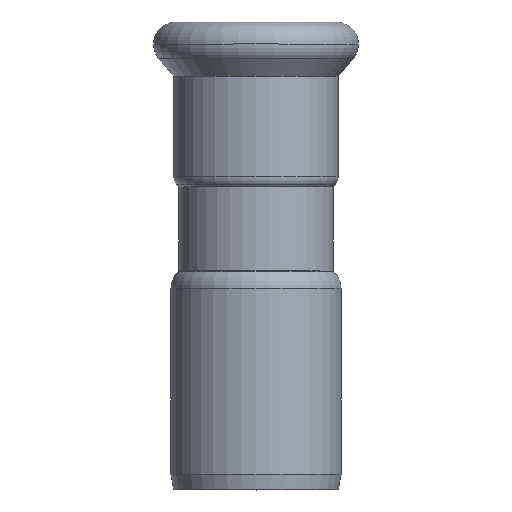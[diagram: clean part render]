
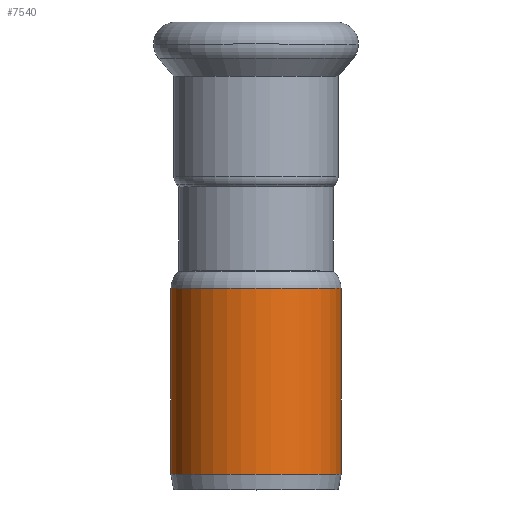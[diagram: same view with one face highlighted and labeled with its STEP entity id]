
A CAD part, top view. The second image highlights one B-rep face of the part: STEP entity #7540.
In plain terms, the highlighted cylindrical face has radius 11 mm (diameter 22 mm), a partial arc.
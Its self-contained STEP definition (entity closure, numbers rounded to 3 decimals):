
#2240=CARTESIAN_POINT('',(-202.976,33.421,0.));
#2250=DIRECTION('',(0.,-1.,0.));
#2260=DIRECTION('',(1.,0.,0.));
#2270=AXIS2_PLACEMENT_3D('',#2240,#2250,#2260);
#2280=CYLINDRICAL_SURFACE('',#2270,11.);
#2290=CARTESIAN_POINT('',(-191.976,33.421,0.));
#2300=DIRECTION('',(0.,-1.,0.));
#2310=VECTOR('',#2300,1.);
#2320=LINE('',#2290,#2310);
#2330=CARTESIAN_POINT('',(-191.976,30.678,0.));
#2340=VERTEX_POINT('',#2330);
#2350=CARTESIAN_POINT('',(-191.976,6.621,0.));
#2360=VERTEX_POINT('',#2350);
#2370=EDGE_CURVE('',#2340,#2360,#2320,.T.);
#2390=CARTESIAN_POINT('',(-202.976,30.678,0.));
#2400=DIRECTION('',(0.,-1.,0.));
#2410=DIRECTION('',(-1.,0.,0.));
#2420=AXIS2_PLACEMENT_3D('',#2390,#2400,#2410);
#2430=CIRCLE('',#2420,11.);
#2440=CARTESIAN_POINT('',(-213.976,30.678,0.));
#2450=VERTEX_POINT('',#2440);
#2480=CARTESIAN_POINT('',(-213.976,33.421,
0.));
#2490=DIRECTION('',(0.,-1.,0.));
#2500=VECTOR('',#2490,1.);
#2510=LINE('',#2480,#2500);
#2520=CARTESIAN_POINT('',(-213.976,6.621,
0.));
#2530=VERTEX_POINT('',#2520);
#2540=EDGE_CURVE('',#2450,#2530,#2510,.T.);
#2560=CARTESIAN_POINT('',(-202.976,6.621,0.));
#2570=DIRECTION('',(0.,-1.,0.));
#2580=DIRECTION('',(-1.,0.,0.));
#2590=AXIS2_PLACEMENT_3D('',#2560,#2570,#2580);
#2600=CIRCLE('',#2590,11.);
#7460=EDGE_CURVE('',#2340,#2450,#2430,.T.);
#7470=ORIENTED_EDGE('',*,*,#7460,.T.);
#7480=ORIENTED_EDGE('',*,*,#2370,.F.);
#7490=EDGE_CURVE('',#2360,#2530,#2600,.T.);
#7500=ORIENTED_EDGE('',*,*,#7490,.F.);
#7510=ORIENTED_EDGE('',*,*,#2540,.T.);
#7520=EDGE_LOOP('',(#7510,#7500,#7480,#7470));
#7530=FACE_OUTER_BOUND('',#7520,.T.);
#7540=ADVANCED_FACE('',(#7530),#2280,.T.);
